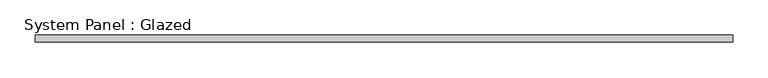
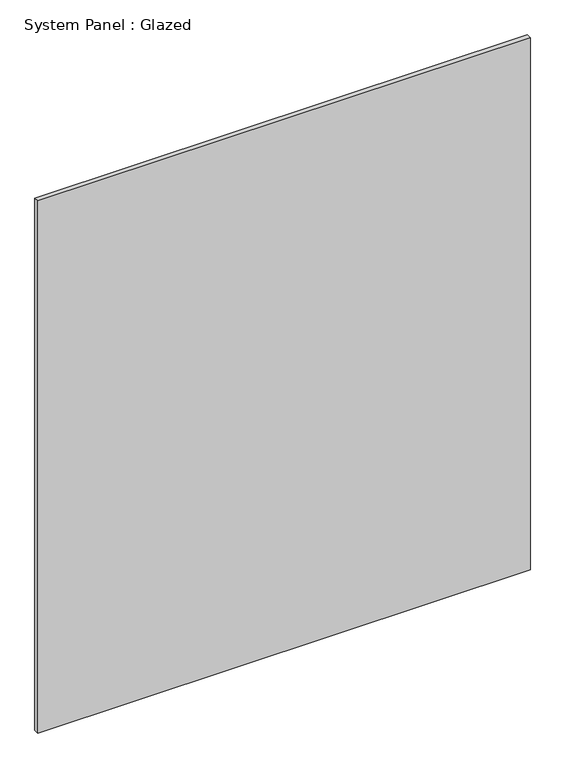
"""IFC4 building model written with IfcOpenShell, lengths in millimetres: plate geometry, System Panel : Glazed."""

from ifc_helpers import new_model, si_unit, origin, origin_with_axes, place, context, project, spatial, polyline, outline, extrude, source, transform, mapped, element, save


def system_panel_glazed_d6e8c8ab(model_context):
    return source(origin(), model_context, "Body", "SweptSolid", [
        extrude(outline(polyline([(492.5, -5.0), (-492.5, -5.0), (-492.5, 5.0), (492.5, 5.0), (492.5, -5.0)])), origin_with_axes(), (0.0, 0.0, 1.0), 1124.6707214),
    ])


if __name__ == "__main__":
    model = new_model("IFC4")
    model_context = context("Model", 3, world=origin())
    ifc_project = project(units=[si_unit("LENGTHUNIT", "METRE", prefix="MILLI")], contexts=[model_context])
    site = spatial("IfcSite", under=ifc_project)
    building = spatial("IfcBuilding", under=site)
    placement = place(None, origin())
    system_panel_glazed_shape = system_panel_glazed_d6e8c8ab(model_context)
    element("IfcPlate", 1, ObjectType="System Panel : Glazed", at=placement, inside=building, context=model_context, shape_type="MappedRepresentation", body=[
        mapped(system_panel_glazed_shape, transform((0.0, 0.0, 0.0), x_axis=(1.0, 0.0, 0.0), y_axis=(0.0, 1.0, 0.0), z_axis=(0.0, 0.0, 1.0))),
    ])
    save(model, "model.ifc")
